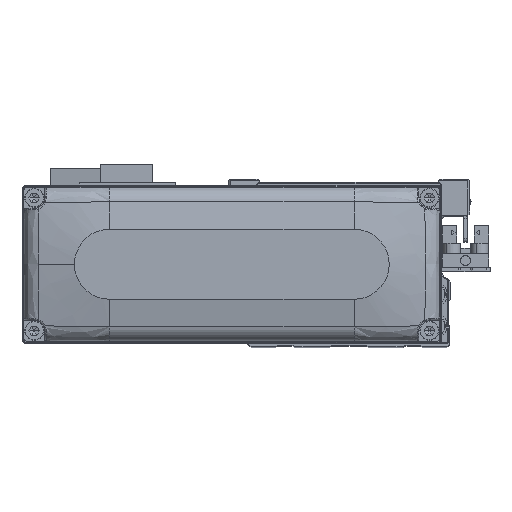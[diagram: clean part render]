
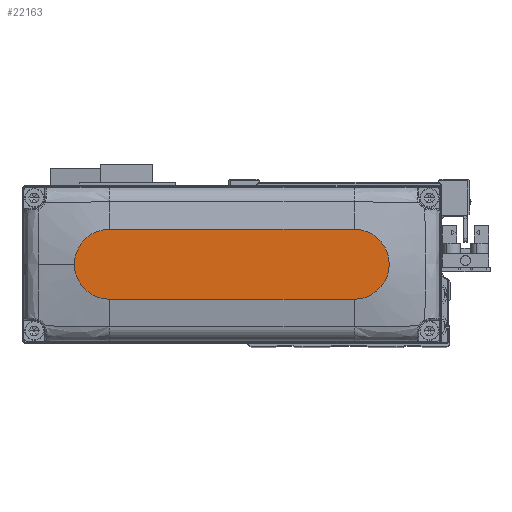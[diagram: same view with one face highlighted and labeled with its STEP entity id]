
A CAD part, top view. The second image highlights one B-rep face of the part: STEP entity #22163.
In plain terms, the highlighted planar face has unit normal (0, 0, 1).
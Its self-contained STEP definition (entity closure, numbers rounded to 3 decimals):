
#2541 = DIRECTION ( 'NONE',  ( 0., 0., 1. ) ) ;
#2889 = VERTEX_POINT ( 'NONE', #6083 ) ;
#5309 = DIRECTION ( 'NONE',  ( 0., 0., 1. ) ) ;
#5761 = VERTEX_POINT ( 'NONE', #19147 ) ;
#5910 = DIRECTION ( 'NONE',  ( 1., 0., 0. ) ) ;
#6083 = CARTESIAN_POINT ( 'NONE',  ( 45., 0., 28. ) ) ;
#6454 = ORIENTED_EDGE ( 'NONE', *, *, #21588, .T. ) ;
#7331 = VERTEX_POINT ( 'NONE', #22752 ) ;
#7694 = EDGE_LOOP ( 'NONE', ( #6454, #8150, #18696, #27990, #26917 ) ) ;
#8091 = FACE_OUTER_BOUND ( 'NONE', #7694, .T. ) ;
#8150 = ORIENTED_EDGE ( 'NONE', *, *, #8294, .T. ) ;
#8294 = EDGE_CURVE ( 'NONE', #24632, #29389, #14840, .T. ) ;
#9126 = EDGE_CURVE ( 'NONE', #2889, #7331, #10698, .T. ) ;
#9994 = CARTESIAN_POINT ( 'NONE',  ( -35., -10., 28. ) ) ;
#10698 = CIRCLE ( 'NONE', #31258, 10. ) ;
#11127 = DIRECTION ( 'NONE',  ( 0., 0., 1. ) ) ;
#12740 = LINE ( 'NONE', #23974, #13886 ) ;
#13337 = AXIS2_PLACEMENT_3D ( 'NONE', #30521, #5309, #16533 ) ;
#13768 = DIRECTION ( 'NONE',  ( 1., 0., 0. ) ) ;
#13886 = VECTOR ( 'NONE', #35194, 1000. ) ;
#14840 = CIRCLE ( 'NONE', #19558, 10. ) ;
#15506 = VECTOR ( 'NONE', #21214, 1000. ) ;
#16533 = DIRECTION ( 'NONE',  ( 1., 0., 0. ) ) ;
#18054 = AXIS2_PLACEMENT_3D ( 'NONE', #27757, #2541, #13768 ) ;
#18541 = CARTESIAN_POINT ( 'NONE',  ( -35., 10., 28. ) ) ;
#18696 = ORIENTED_EDGE ( 'NONE', *, *, #24998, .T. ) ;
#18844 = CARTESIAN_POINT ( 'NONE',  ( -35., -10., 28. ) ) ;
#19147 = CARTESIAN_POINT ( 'NONE',  ( 35., -10., 28. ) ) ;
#19322 = PLANE ( 'NONE',  #13337 ) ;
#19558 = AXIS2_PLACEMENT_3D ( 'NONE', #19911, #31119, #5910 ) ;
#19911 = CARTESIAN_POINT ( 'NONE',  ( -35., 0., 28. ) ) ;
#21214 = DIRECTION ( 'NONE',  ( 1., 0., 0. ) ) ;
#21588 = EDGE_CURVE ( 'NONE', #7331, #24632, #12740, .T. ) ;
#22163 = ADVANCED_FACE ( 'NONE', ( #8091 ), #19322, .T. ) ;
#22165 = EDGE_CURVE ( 'NONE', #5761, #2889, #33914, .T. ) ;
#22350 = DIRECTION ( 'NONE',  ( 1., 0., 0. ) ) ;
#22752 = CARTESIAN_POINT ( 'NONE',  ( 35., 10., 28. ) ) ;
#23974 = CARTESIAN_POINT ( 'NONE',  ( -35., 10., 28. ) ) ;
#24632 = VERTEX_POINT ( 'NONE', #18541 ) ;
#24998 = EDGE_CURVE ( 'NONE', #29389, #5761, #35205, .T. ) ;
#26917 = ORIENTED_EDGE ( 'NONE', *, *, #9126, .T. ) ;
#27757 = CARTESIAN_POINT ( 'NONE',  ( 35., 0., 28. ) ) ;
#27990 = ORIENTED_EDGE ( 'NONE', *, *, #22165, .T. ) ;
#29389 = VERTEX_POINT ( 'NONE', #18844 ) ;
#30521 = CARTESIAN_POINT ( 'NONE',  ( 0., 0., 28. ) ) ;
#31119 = DIRECTION ( 'NONE',  ( 0., 0., 1. ) ) ;
#31258 = AXIS2_PLACEMENT_3D ( 'NONE', #36346, #11127, #22350 ) ;
#33914 = CIRCLE ( 'NONE', #18054, 10. ) ;
#35194 = DIRECTION ( 'NONE',  ( -1., 0., 0. ) ) ;
#35205 = LINE ( 'NONE', #9994, #15506 ) ;
#36346 = CARTESIAN_POINT ( 'NONE',  ( 35., 0., 28. ) ) ;
